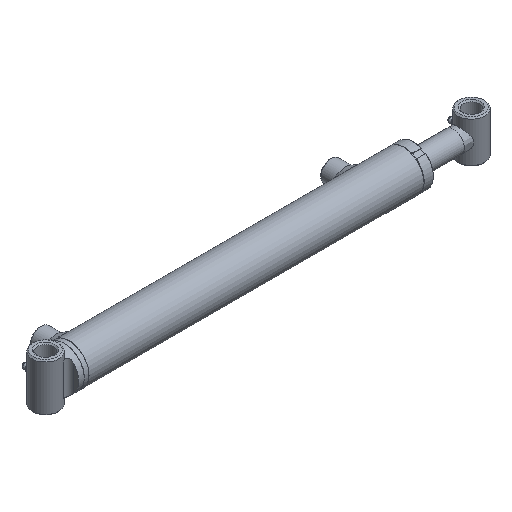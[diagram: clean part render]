
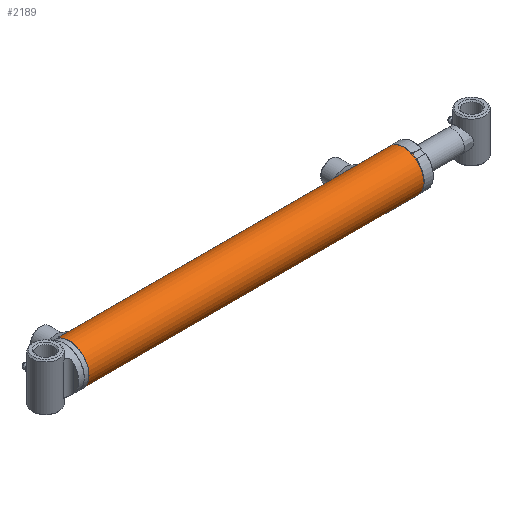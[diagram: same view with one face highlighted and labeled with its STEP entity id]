
A CAD part, isometric view. The second image highlights one B-rep face of the part: STEP entity #2189.
In plain terms, the highlighted cylindrical face has radius 23.812 mm (diameter 47.625 mm), a full revolution.
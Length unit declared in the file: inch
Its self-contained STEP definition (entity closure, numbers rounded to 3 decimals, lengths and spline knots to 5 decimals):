
#387=FACE_BOUND('',#697,.T.);
#388=FACE_BOUND('',#698,.T.);
#389=FACE_BOUND('',#699,.T.);
#509=FACE_OUTER_BOUND('',#696,.T.);
#696=EDGE_LOOP('',(#1677));
#697=EDGE_LOOP('',(#1678));
#698=EDGE_LOOP('',(#1679));
#699=EDGE_LOOP('',(#1680));
#933=CIRCLE('',#2369,0.9375);
#937=CIRCLE('',#2377,0.9375);
#1070=B_SPLINE_CURVE_WITH_KNOTS('',3,(#4781,#4782,#4783,#4784,#4785,#4786,
#4787,#4788,#4789,#4790,#4791,#4792,#4793,#4794,#4795,#4796,#4797,#4798,
#4799,#4800,#4801,#4802,#4803,#4804,#4805,#4806,#4807,#4808,#4809,#4810,
#4811,#4812,#4813,#4814),.UNSPECIFIED.,.T.,.F.,(4,2,2,2,2,2,2,2,2,2,2,2,
2,2,2,2,4),(0.,0.18896,0.37791,0.56686,0.7558,
0.94474,1.13369,1.32264,1.5116,1.70055,
1.88951,2.07845,2.2674,2.45634,2.64528,
2.83424,3.0232),.UNSPECIFIED.);
#1072=B_SPLINE_CURVE_WITH_KNOTS('',3,(#4974,#4975,#4976,#4977,#4978,#4979,
#4980,#4981,#4982,#4983,#4984,#4985,#4986,#4987,#4988,#4989,#4990,#4991,
#4992,#4993,#4994,#4995,#4996,#4997,#4998,#4999,#5000,#5001,#5002,#5003,
#5004,#5005,#5006,#5007),.UNSPECIFIED.,.T.,.F.,(4,2,2,2,2,2,2,2,2,2,2,2,
2,2,2,2,4),(0.,0.18896,0.37791,0.56686,0.7558,
0.94474,1.13369,1.32264,1.5116,1.70055,
1.88951,2.07845,2.2674,2.45634,2.64528,
2.83424,3.0232),.UNSPECIFIED.);
#1126=VERTEX_POINT('',#4780);
#1128=VERTEX_POINT('',#4973);
#1132=VERTEX_POINT('',#5017);
#1136=VERTEX_POINT('',#5029);
#1345=EDGE_CURVE('',#1126,#1126,#1070,.T.);
#1348=EDGE_CURVE('',#1128,#1128,#1072,.T.);
#1352=EDGE_CURVE('',#1132,#1132,#933,.T.);
#1356=EDGE_CURVE('',#1136,#1136,#937,.T.);
#1677=ORIENTED_EDGE('',*,*,#1356,.T.);
#1678=ORIENTED_EDGE('',*,*,#1345,.T.);
#1679=ORIENTED_EDGE('',*,*,#1348,.T.);
#1680=ORIENTED_EDGE('',*,*,#1352,.F.);
#2120=CYLINDRICAL_SURFACE('',#2379,0.9375);
#2189=ADVANCED_FACE('',(#509,#387,#388,#389),#2120,.T.);
#2369=AXIS2_PLACEMENT_3D('',#5018,#2714,#2715);
#2377=AXIS2_PLACEMENT_3D('',#5030,#2730,#2731);
#2379=AXIS2_PLACEMENT_3D('',#5032,#2734,#2735);
#2714=DIRECTION('center_axis',(1.,0.,0.));
#2715=DIRECTION('ref_axis',(0.,-1.,0.));
#2730=DIRECTION('center_axis',(1.,0.,0.));
#2731=DIRECTION('ref_axis',(0.,-1.,0.));
#2734=DIRECTION('center_axis',(1.,0.,0.));
#2735=DIRECTION('ref_axis',(0.,-1.,0.));
#4780=CARTESIAN_POINT('',(6.22195,0.9166,-0.19685));
#4781=CARTESIAN_POINT('Ctrl Pts',(6.22195,0.9166,-0.19685));
#4782=CARTESIAN_POINT('Ctrl Pts',(6.24675,0.9166,-0.19685));
#4783=CARTESIAN_POINT('Ctrl Pts',(6.27314,0.91771,-0.19188));
#4784=CARTESIAN_POINT('Ctrl Pts',(6.32162,0.92169,-0.17177));
#4785=CARTESIAN_POINT('Ctrl Pts',(6.34371,0.92449,-0.15663));
#4786=CARTESIAN_POINT('Ctrl Pts',(6.37858,0.92973,-0.12176));
#4787=CARTESIAN_POINT('Ctrl Pts',(6.39372,0.9325,-0.09967));
#4788=CARTESIAN_POINT('Ctrl Pts',(6.41383,0.93642,-0.05119));
#4789=CARTESIAN_POINT('Ctrl Pts',(6.4188,0.9375,-0.0248));
#4790=CARTESIAN_POINT('Ctrl Pts',(6.4188,0.9375,0.0248));
#4791=CARTESIAN_POINT('Ctrl Pts',(6.41383,0.93642,0.05119));
#4792=CARTESIAN_POINT('Ctrl Pts',(6.39372,0.9325,0.09967));
#4793=CARTESIAN_POINT('Ctrl Pts',(6.37858,0.92973,0.12176));
#4794=CARTESIAN_POINT('Ctrl Pts',(6.34371,0.92449,0.15663));
#4795=CARTESIAN_POINT('Ctrl Pts',(6.32162,0.92169,0.17177));
#4796=CARTESIAN_POINT('Ctrl Pts',(6.27314,0.91771,0.19188));
#4797=CARTESIAN_POINT('Ctrl Pts',(6.24675,0.9166,0.19685));
#4798=CARTESIAN_POINT('Ctrl Pts',(6.19715,0.9166,0.19685));
#4799=CARTESIAN_POINT('Ctrl Pts',(6.17075,0.91771,0.19188));
#4800=CARTESIAN_POINT('Ctrl Pts',(6.12228,0.92169,0.17177));
#4801=CARTESIAN_POINT('Ctrl Pts',(6.10019,0.92449,0.15663));
#4802=CARTESIAN_POINT('Ctrl Pts',(6.06532,0.92973,0.12176));
#4803=CARTESIAN_POINT('Ctrl Pts',(6.05018,0.9325,0.09967));
#4804=CARTESIAN_POINT('Ctrl Pts',(6.03007,0.93642,0.05119));
#4805=CARTESIAN_POINT('Ctrl Pts',(6.0251,0.9375,0.0248));
#4806=CARTESIAN_POINT('Ctrl Pts',(6.0251,0.9375,-0.0248));
#4807=CARTESIAN_POINT('Ctrl Pts',(6.03007,0.93642,-0.05119));
#4808=CARTESIAN_POINT('Ctrl Pts',(6.05018,0.9325,-0.09967));
#4809=CARTESIAN_POINT('Ctrl Pts',(6.06532,0.92973,-0.12176));
#4810=CARTESIAN_POINT('Ctrl Pts',(6.10019,0.92449,-0.15663));
#4811=CARTESIAN_POINT('Ctrl Pts',(6.12228,0.92169,-0.17177));
#4812=CARTESIAN_POINT('Ctrl Pts',(6.17075,0.91771,-0.19188));
#4813=CARTESIAN_POINT('Ctrl Pts',(6.19715,0.9166,-0.19685));
#4814=CARTESIAN_POINT('Ctrl Pts',(6.22195,0.9166,-0.19685));
#4973=CARTESIAN_POINT('',(-7.40305,0.9166,-0.19685));
#4974=CARTESIAN_POINT('Ctrl Pts',(-7.40305,0.9166,-0.19685));
#4975=CARTESIAN_POINT('Ctrl Pts',(-7.37825,0.9166,-0.19685));
#4976=CARTESIAN_POINT('Ctrl Pts',(-7.35186,0.91771,-0.19188));
#4977=CARTESIAN_POINT('Ctrl Pts',(-7.30338,0.92169,-0.17177));
#4978=CARTESIAN_POINT('Ctrl Pts',(-7.28129,0.92449,-0.15663));
#4979=CARTESIAN_POINT('Ctrl Pts',(-7.24642,0.92973,-0.12176));
#4980=CARTESIAN_POINT('Ctrl Pts',(-7.23128,0.9325,-0.09967));
#4981=CARTESIAN_POINT('Ctrl Pts',(-7.21117,0.93642,-0.05119));
#4982=CARTESIAN_POINT('Ctrl Pts',(-7.2062,0.9375,-0.0248));
#4983=CARTESIAN_POINT('Ctrl Pts',(-7.2062,0.9375,0.0248));
#4984=CARTESIAN_POINT('Ctrl Pts',(-7.21117,0.93642,0.05119));
#4985=CARTESIAN_POINT('Ctrl Pts',(-7.23128,0.9325,0.09967));
#4986=CARTESIAN_POINT('Ctrl Pts',(-7.24642,0.92973,0.12176));
#4987=CARTESIAN_POINT('Ctrl Pts',(-7.28129,0.92449,0.15663));
#4988=CARTESIAN_POINT('Ctrl Pts',(-7.30338,0.92169,0.17177));
#4989=CARTESIAN_POINT('Ctrl Pts',(-7.35186,0.91771,0.19188));
#4990=CARTESIAN_POINT('Ctrl Pts',(-7.37825,0.9166,0.19685));
#4991=CARTESIAN_POINT('Ctrl Pts',(-7.42785,0.9166,0.19685));
#4992=CARTESIAN_POINT('Ctrl Pts',(-7.45425,0.91771,0.19188));
#4993=CARTESIAN_POINT('Ctrl Pts',(-7.50272,0.92169,0.17177));
#4994=CARTESIAN_POINT('Ctrl Pts',(-7.52481,0.92449,0.15663));
#4995=CARTESIAN_POINT('Ctrl Pts',(-7.55968,0.92973,0.12176));
#4996=CARTESIAN_POINT('Ctrl Pts',(-7.57482,0.9325,0.09967));
#4997=CARTESIAN_POINT('Ctrl Pts',(-7.59493,0.93642,0.05119));
#4998=CARTESIAN_POINT('Ctrl Pts',(-7.5999,0.9375,0.0248));
#4999=CARTESIAN_POINT('Ctrl Pts',(-7.5999,0.9375,-0.0248));
#5000=CARTESIAN_POINT('Ctrl Pts',(-7.59493,0.93642,-0.05119));
#5001=CARTESIAN_POINT('Ctrl Pts',(-7.57482,0.9325,-0.09967));
#5002=CARTESIAN_POINT('Ctrl Pts',(-7.55968,0.92973,-0.12176));
#5003=CARTESIAN_POINT('Ctrl Pts',(-7.52481,0.92449,-0.15663));
#5004=CARTESIAN_POINT('Ctrl Pts',(-7.50272,0.92169,-0.17177));
#5005=CARTESIAN_POINT('Ctrl Pts',(-7.45425,0.91771,-0.19188));
#5006=CARTESIAN_POINT('Ctrl Pts',(-7.42785,0.9166,-0.19685));
#5007=CARTESIAN_POINT('Ctrl Pts',(-7.40305,0.9166,-0.19685));
#5017=CARTESIAN_POINT('',(7.95423,0.9375,0.));
#5018=CARTESIAN_POINT('Origin',(7.95423,0.,0.));
#5029=CARTESIAN_POINT('',(-7.78445,0.9375,0.));
#5030=CARTESIAN_POINT('Origin',(-7.78445,0.,0.));
#5032=CARTESIAN_POINT('Origin',(0.,0.,0.));
